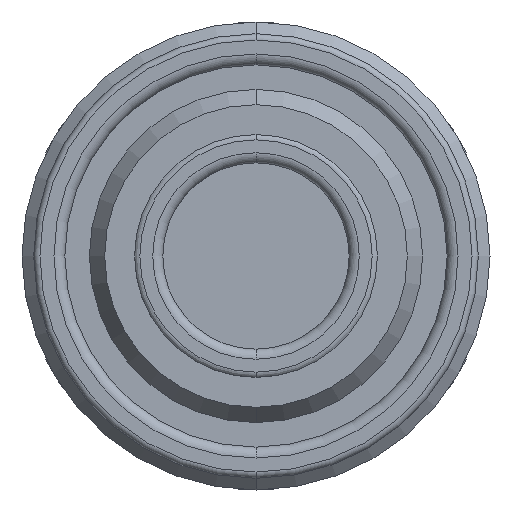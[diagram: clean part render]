
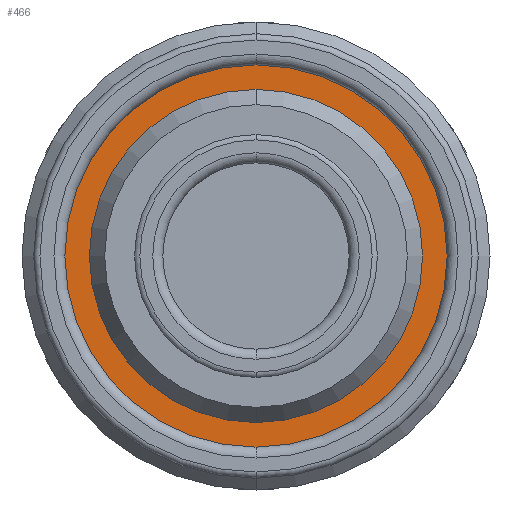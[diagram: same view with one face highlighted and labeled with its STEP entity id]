
A CAD part, front view. The second image highlights one B-rep face of the part: STEP entity #466.
In plain terms, the highlighted planar face has unit normal (0, -1, 0) by its records, which use the part's own axes.
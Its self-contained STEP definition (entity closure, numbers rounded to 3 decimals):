
#274=PLANE('',#2873);
#313=FACE_BOUND('',#834,.T.);
#314=FACE_BOUND('',#835,.T.);
#466=ADVANCED_FACE('',(#313,#314),#274,.T.);
#834=EDGE_LOOP('',(#1530,#1531));
#835=EDGE_LOOP('',(#1532,#1533));
#1530=ORIENTED_EDGE('',*,*,#2270,.T.);
#1531=ORIENTED_EDGE('',*,*,#2271,.T.);
#1532=ORIENTED_EDGE('',*,*,#2269,.F.);
#1533=ORIENTED_EDGE('',*,*,#2267,.F.);
#1961=VERTEX_POINT('',#4518);
#1962=VERTEX_POINT('',#4520);
#1963=VERTEX_POINT('',#4526);
#1964=VERTEX_POINT('',#4527);
#2267=EDGE_CURVE('',#1961,#1962,#2557,.T.);
#2269=EDGE_CURVE('',#1962,#1961,#2558,.T.);
#2270=EDGE_CURVE('',#1963,#1964,#2559,.T.);
#2271=EDGE_CURVE('',#1964,#1963,#2560,.T.);
#2557=CIRCLE('',#2867,10.68);
#2558=CIRCLE('',#2869,10.68);
#2559=CIRCLE('',#2871,13.9);
#2560=CIRCLE('',#2872,13.9);
#2867=AXIS2_PLACEMENT_3D('',#4519,#3549,#3550);
#2869=AXIS2_PLACEMENT_3D('',#4523,#3554,#3555);
#2871=AXIS2_PLACEMENT_3D('',#4525,#3558,#3559);
#2872=AXIS2_PLACEMENT_3D('',#4528,#3560,#3561);
#2873=AXIS2_PLACEMENT_3D('',#4529,#3562,#3563);
#3549=DIRECTION('',(0.,-1.,0.));
#3550=DIRECTION('',(0.,0.,-1.));
#3554=DIRECTION('',(0.,-1.,0.));
#3555=DIRECTION('',(0.,0.,-1.));
#3558=DIRECTION('',(0.,-1.,0.));
#3559=DIRECTION('',(0.,0.,-1.));
#3560=DIRECTION('',(0.,-1.,0.));
#3561=DIRECTION('',(0.,0.,-1.));
#3562=DIRECTION('',(0.,-1.,0.));
#3563=DIRECTION('',(0.,0.,1.));
#4518=CARTESIAN_POINT('',(0.,0.1,-10.68));
#4519=CARTESIAN_POINT('',(0.,0.1,0.));
#4520=CARTESIAN_POINT('',(0.,0.1,10.68));
#4523=CARTESIAN_POINT('',(0.,0.1,0.));
#4525=CARTESIAN_POINT('',(0.,0.1,0.));
#4526=CARTESIAN_POINT('',(0.,0.1,-13.9));
#4527=CARTESIAN_POINT('',(0.,0.1,13.9));
#4528=CARTESIAN_POINT('',(0.,0.1,0.));
#4529=CARTESIAN_POINT('',(0.,0.1,0.));
